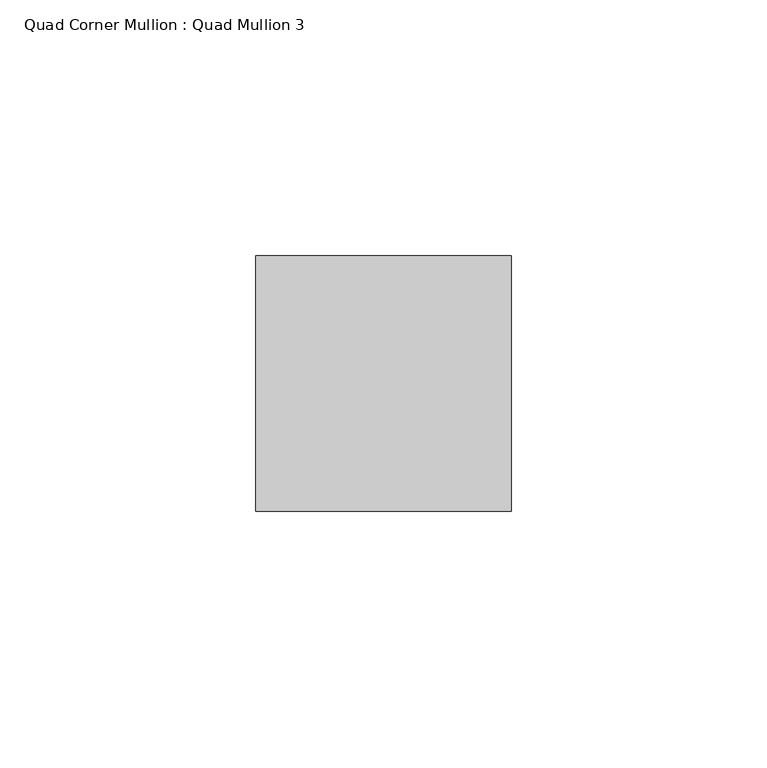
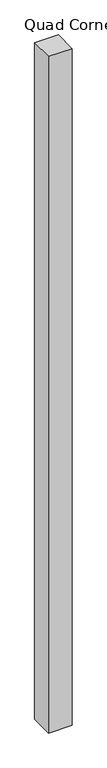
"""IFC4 building model written with IfcOpenShell, lengths in millimetres: member geometry, Quad Corner Mullion : Quad Mullion 3."""

from ifc_helpers import new_model, si_unit, frame, origin, place, context, project, spatial, polyline, outline, extrude, source, transform, mapped, element, save


def quad_corner_mullion_quad_mullion_3_f33563ec(model_context):
    return source(origin(), model_context, "Body", "SweptSolid", [
        extrude(outline(polyline([(25.0, -25.0), (-25.0, -25.0), (-25.0, 25.0), (25.0, 25.0), (25.0, -25.0)])), frame((0.0, 0.0, -1508.4049061), z_axis=(0.0, 0.0, 1.0), x_axis=(1.0, 0.0, 0.0)), (0.0, 0.0, 1.0), 1508.4049061),
    ])


if __name__ == "__main__":
    model = new_model("IFC4")
    model_context = context("Model", 3, world=origin())
    ifc_project = project(units=[si_unit("LENGTHUNIT", "METRE", prefix="MILLI")], contexts=[model_context])
    site = spatial("IfcSite", under=ifc_project)
    building = spatial("IfcBuilding", under=site)
    placement = place(None, origin())
    quad_corner_mullion_quad_mullion_3_shape = quad_corner_mullion_quad_mullion_3_f33563ec(model_context)
    element("IfcMember", 1, ObjectType="Quad Corner Mullion : Quad Mullion 3", at=placement, inside=building, context=model_context, shape_type="MappedRepresentation", body=[
        mapped(quad_corner_mullion_quad_mullion_3_shape, transform((0.0, 0.0, 0.0), x_axis=(1.0, 0.0, 0.0), y_axis=(0.0, 1.0, 0.0), z_axis=(0.0, 0.0, 1.0))),
    ])
    save(model, "model.ifc")
